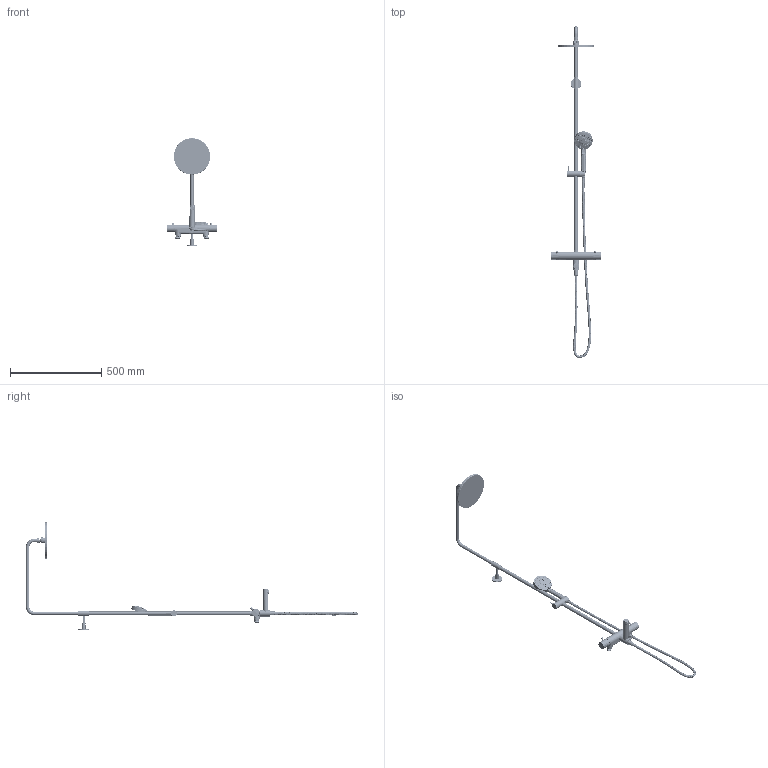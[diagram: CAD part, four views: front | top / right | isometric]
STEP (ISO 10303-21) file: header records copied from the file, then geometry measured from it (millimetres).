
FILE_DESCRIPTION((''),'2;1');
FILE_NAME('57817--_SW0002','2026-10-01T13:32:05',('simi1'),(''),'CREO PARAMETRIC BY PTC INC, 2022244','CREO PARAMETRIC BY PTC INC, 2022244','');
FILE_SCHEMA(('CONFIG_CONTROL_DESIGN'));
Products named in the file (1): 57817--_SW0002
Bounding box: 276.55 x 1820.81 x 590 mm (x, y, z)
Surface area: 494013.2 mm2 (no closed solid volume)
Topology: 0 solids, 401 shells, 1219 faces, 3751 edges, 2812 vertices
Faces by surface type: bspline 348, plane 340, cylinder 298, cone 138, torus 70, sphere 19, revolution 3, extrusion 3
Entity records: 327264 total; most frequent: CARTESIAN_POINT 298408, ORIENTED_EDGE 5343, DIRECTION 5316, EDGE_CURVE 3735, VERTEX_POINT 2812, AXIS2_PLACEMENT_3D 2194, B_SPLINE_CURVE_WITH_KNOTS 1490, CIRCLE 1329
